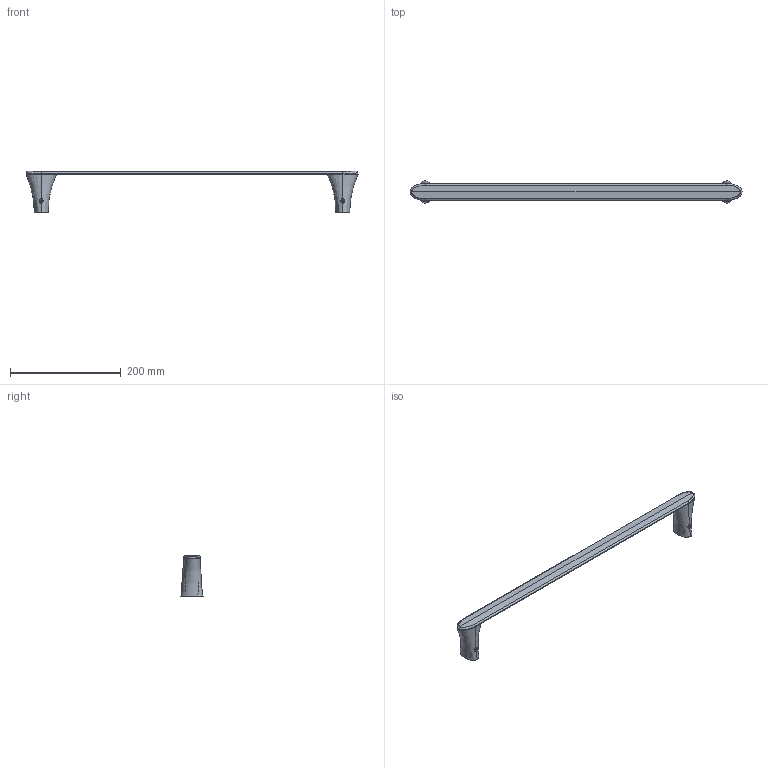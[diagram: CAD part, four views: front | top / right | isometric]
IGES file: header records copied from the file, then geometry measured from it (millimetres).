
Start section: SolidWorks IGES file using analytic representation for surfaces
Global section: file name: G:\Projects\New project\For Marketing\IGS\IGS\2015-12-25\761060001VW.IGS; native system: SolidWorks 2010; preprocessor: SolidWorks 2010; author: linda; date: 151230.144702; units: millimetre
Bounding box: 600 x 40 x 75 mm (x, y, z)
Surface area: 61237.5 mm2 (no closed solid volume)
Topology: 0 solids, 0 shells, 89 faces, 2195 edges, 2195 vertices
Faces by surface type: revolution 45, bspline 44
